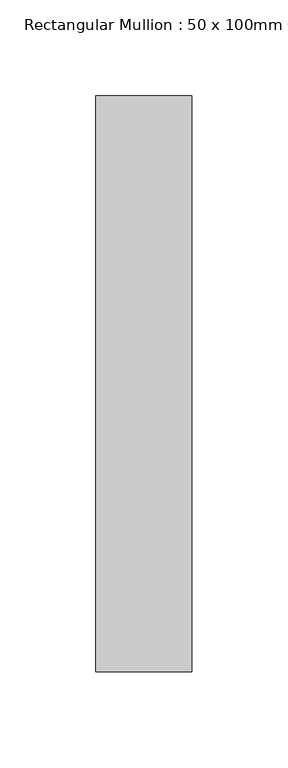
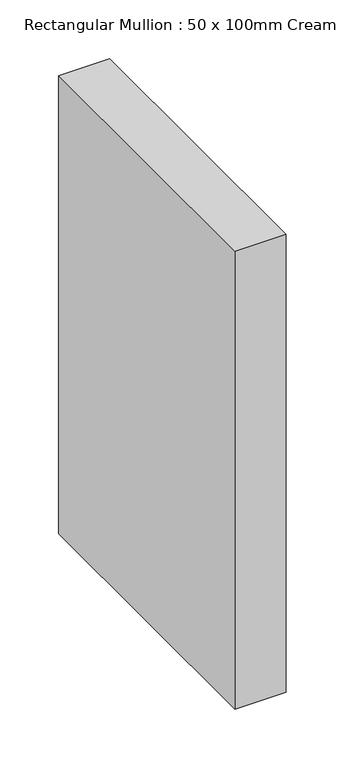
"""IFC4 building model written with IfcOpenShell, lengths in millimetres: member geometry, Rectangular Mullion : 50 x 100mm Cream."""

from ifc_helpers import new_model, si_unit, frame, origin, place, context, project, spatial, polyline, outline, extrude, source, transform, mapped, element, save


def rectangular_mullion_50_x_100mm_cream_28181c7c(model_context):
    return source(origin(), model_context, "Body", "SweptSolid", [
        extrude(outline(polyline([(0.0, 125.0), (0.0, -175.0), (-50.0, -175.0), (-50.0, 125.0), (0.0, 125.0)])), frame((0.0, 0.0, -475.0), z_axis=(0.0, 0.0, 1.0), x_axis=(1.0, 0.0, 0.0)), (0.0, 0.0, 1.0), 475.0),
    ])


if __name__ == "__main__":
    model = new_model("IFC4")
    model_context = context("Model", 3, world=origin())
    ifc_project = project(units=[si_unit("LENGTHUNIT", "METRE", prefix="MILLI")], contexts=[model_context])
    site = spatial("IfcSite", under=ifc_project)
    building = spatial("IfcBuilding", under=site)
    placement = place(None, origin())
    rectangular_mullion_50_x_100mm_cream_shape = rectangular_mullion_50_x_100mm_cream_28181c7c(model_context)
    element("IfcMember", 1, ObjectType="Rectangular Mullion : 50 x 100mm Cream", at=placement, inside=building, context=model_context, shape_type="MappedRepresentation", body=[
        mapped(rectangular_mullion_50_x_100mm_cream_shape, transform((0.0, 0.0, 0.0), x_axis=(1.0, 0.0, 0.0), y_axis=(0.0, 1.0, 0.0), z_axis=(0.0, 0.0, 1.0))),
    ])
    save(model, "model.ifc")
